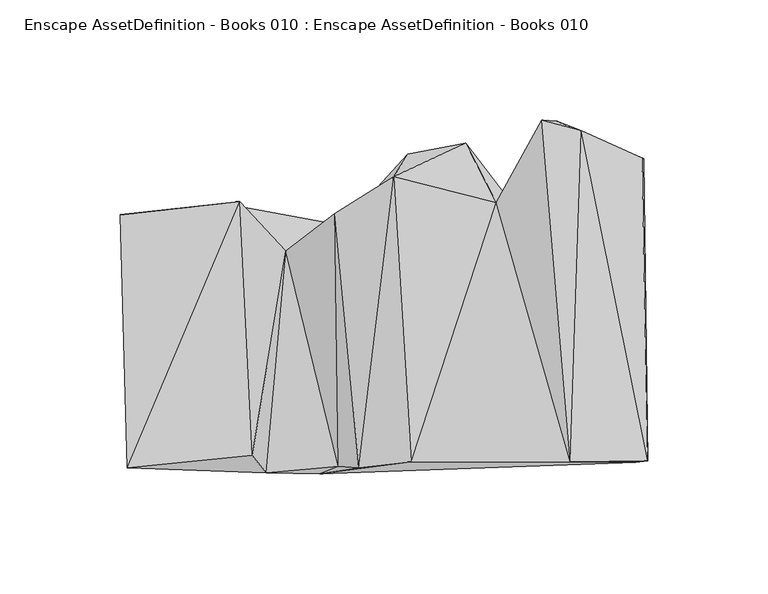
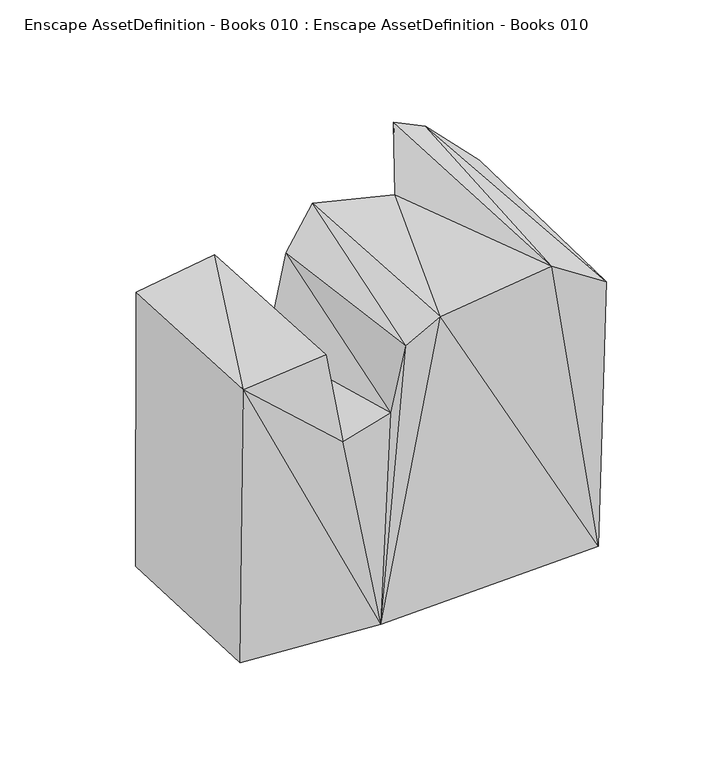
"""IFC4 building model written with IfcOpenShell, lengths in millimetres: geographic element geometry, Enscape AssetDefinition - Books 010 : Enscape AssetDefinition - Books 010."""

from ifc_helpers import new_model, si_unit, origin, place, context, project, spatial, triangles, source, transform, mapped, element, save


def enscape_assetdefinition_books_010_enscape_assetdefinition_d08a0240(model_context):
    return source(origin(), model_context, "Body", "Tessellation", [
        triangles([(-108.2041784, -66.2049297, 0.0), (-111.1806319, 35.6355156, 0.0), (-111.2349436, 35.431095, 171.902734), (-61.3007868, 41.0907104, 174.3775103), (-108.2387511, -69.8173727, 173.3287371), (-56.2712337, -64.7720093, 173.9716302), (-42.157256, 20.5043716, 124.0088278), (-64.7808978, 39.7180244, 0.0), (-50.4516352, -71.8921961, 121.7384722), (-18.6102614, 31.1461435, 0.0), (-20.3819159, -69.2120045, 127.9856745), (-11.9127403, -69.8509462, 167.3432376), (2.7720354, 51.5734872, 177.9445345), (-21.7368273, 35.9979458, 164.6758677), (32.6659726, 65.4000869, 0.0), (9.9376531, -67.3722094, 176.4000067), (-28.1252477, -72.3089448, 0.0), (8.655821, 60.8188713, 0.0), (45.458617, 40.6156986, 174.8377293), (52.3684605, 39.7624576, 0.0), (64.3562507, 75.0790019, 192.845569), (76.1672758, -67.4136858, 184.6884725), (103.5074266, -67.5637948, 0.0), (108.5715433, -66.9841018, 163.4078855), (106.8058263, 59.0008, 0.0), (70.6232056, 74.7155839, 0.0), (80.8472454, 70.5521026, 187.318272), (106.1046608, 59.1232535, 164.0922369)], [[28, 26, 27], [28, 25, 26], [28, 24, 25], [27, 24, 28], [22, 24, 27], [27, 26, 21], [21, 22, 27], [26, 20, 21], [24, 23, 25], [26, 23, 20], [25, 23, 26], [22, 23, 24], [23, 22, 16], [19, 22, 21], [16, 22, 19], [20, 19, 21], [15, 19, 20], [20, 18, 15], [20, 17, 18], [17, 23, 16], [20, 23, 17], [12, 17, 16], [12, 16, 13], [15, 13, 19], [16, 19, 13], [18, 13, 15], [18, 10, 13], [18, 17, 10], [12, 13, 14], [10, 14, 13], [11, 17, 12], [14, 11, 12], [9, 17, 11], [14, 10, 7], [7, 11, 14], [9, 11, 7], [6, 9, 7], [10, 8, 7], [10, 17, 8], [7, 8, 4], [6, 7, 4], [5, 9, 6], [5, 17, 9], [5, 6, 4], [3, 5, 4], [8, 2, 4], [4, 2, 3], [17, 2, 8], [5, 3, 2], [5, 1, 17], [17, 1, 2], [1, 5, 2]]),
    ])


if __name__ == "__main__":
    model = new_model("IFC4")
    model_context = context("Model", 3, world=origin())
    ifc_project = project(units=[si_unit("LENGTHUNIT", "METRE", prefix="MILLI")], contexts=[model_context])
    site = spatial("IfcSite", under=ifc_project)
    building = spatial("IfcBuilding", under=site)
    placement = place(None, origin())
    enscape_assetdefinition_books_010_enscape_assetdefinition_shape = enscape_assetdefinition_books_010_enscape_assetdefinition_d08a0240(model_context)
    element("IfcGeographicElement", 1, ObjectType="Enscape AssetDefinition - Books 010 : Enscape AssetDefinition - Books 010", at=placement, inside=building, context=model_context, shape_type="MappedRepresentation", body=[
        mapped(enscape_assetdefinition_books_010_enscape_assetdefinition_shape, transform((0.0, 0.0, 0.0), x_axis=(1.0, 0.0, 0.0), y_axis=(0.0, 1.0, 0.0), z_axis=(0.0, 0.0, 1.0))),
    ])
    save(model, "model.ifc")
